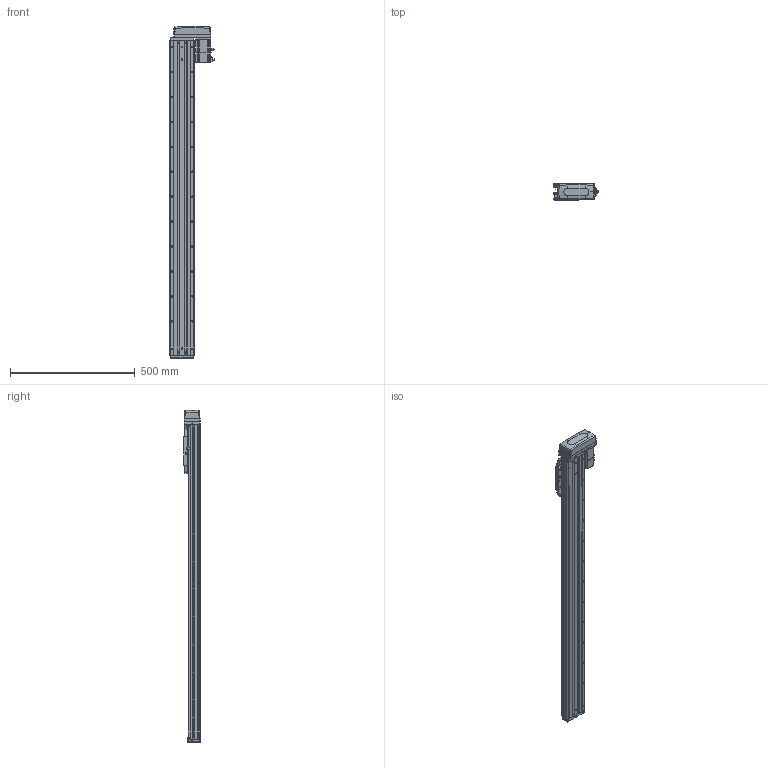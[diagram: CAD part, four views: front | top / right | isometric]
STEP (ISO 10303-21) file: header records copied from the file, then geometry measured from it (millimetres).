
FILE_DESCRIPTION (( 'STEP AP203' ), '1' );
FILE_NAME ('CTHA100-1050-BL-M20-C4L.step', '2022-07-06T08:56:03', ( '微软用户' ), ( '微软中国' ), 'SwSTEP 2.0', 'SolidWorks 2020', '' );
FILE_SCHEMA (( 'CONFIG_CONTROL_DESIGN' ));
Length unit declared in the file: millimetre
Products named in the file (19): KTHA100-004; GBT 70.1-M3℅6; GBT 70.3-M3℅6; KTHA100-005; GBT70.1 M5℅16; CTHA86-015-1_CTHA86-015-2; GB¨uT 70.2-M3¡Á5_M3¡Á6; CTHA60-016; CTHA86-033; EE_SX911P_R; _X2_4E0983F1_X0_200W_1; CTHA100-1050-BL-M20-C4L; CTHA60-017; CTHA100-002; CTHA60-021; CTHA100-031; KTHA100-001_1260; GBT77-2000 M3×3; CTHA86-030
Assembly tree (64 placements, depth 2):
  CTHA100-1050-BL-M20-C4L
    KTHA100-001_1260
    KTHA100-004
    KTHA100-005
    GB¨uT 70.2-M3¡Á5_M3¡Á6  x10
    EE_SX911P_R  x3
    CTHA60-017  x3
    CTHA60-021  x2
    GBT77-2000 M3×3  x6
    GBT 70.1-M3℅6  x10
    GBT70.1 M5℅16  x14
    CTHA60-016  x2
    _X2_4E0983F1_X0_200W_1
    CTHA100-002
    CTHA100-031
    CTHA86-030  x2
    GBT 70.3-M3℅6  x4
    CTHA86-015-1_CTHA86-015-2
    CTHA86-033
Bounding box: 177.7 x 68 x 1331 mm (x, y, z)
Volume: 5248116.3 mm3; surface area: 864009.8 mm2
Topology: 66 solids, 66 shells, 2769 faces, 6695 edges, 4156 vertices
Faces by surface type: plane 1452, cylinder 731, cone 363, torus 124, bspline 75, sphere 24
Entity records: 49222 total; most frequent: CARTESIAN_POINT 9595, DIRECTION 7644, ORIENTED_EDGE 7506, EDGE_CURVE 3753, AXIS2_PLACEMENT_3D 2577, LINE 2490, VECTOR 2490, VERTEX_POINT 2376
